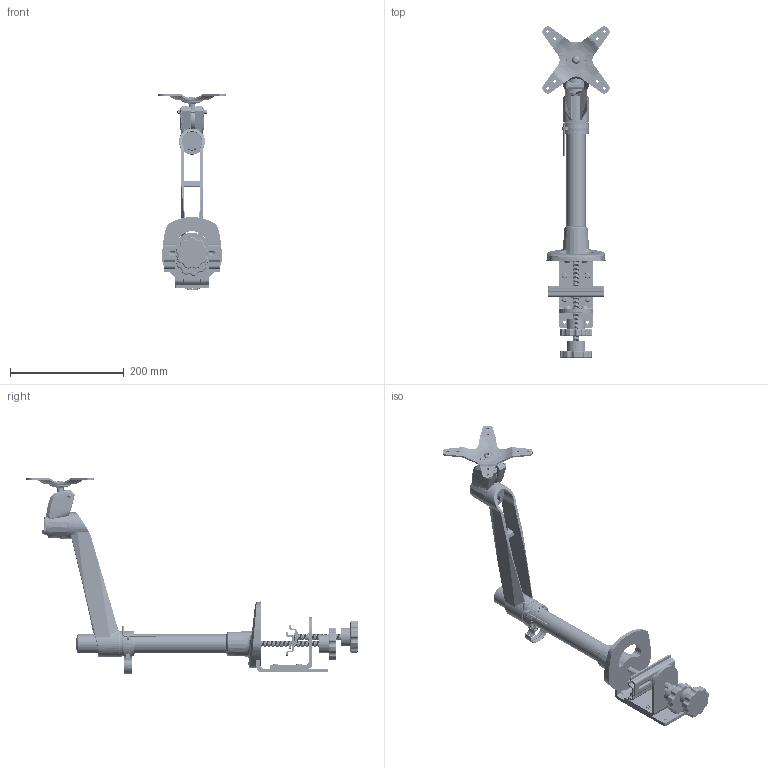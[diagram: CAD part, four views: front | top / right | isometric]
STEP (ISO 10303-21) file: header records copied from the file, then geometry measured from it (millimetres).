
FILE_DESCRIPTION((''),'2;1');
FILE_NAME('EM32131-LAMEX-0418_ASM','2013-04-24T',('B0540'),(''),'PRO/ENGINEER BY PARAMETRIC TECHNOLOGY CORPORATION, 2012360','PRO/ENGINEER BY PARAMETRIC TECHNOLOGY CORPORATION, 2012360','');
FILE_SCHEMA(('CONFIG_CONTROL_DESIGN'));
Length unit declared in the file: millimetre
Products named in the file (51): EM35136-17_2_1; EM35136-18_1_1; MANIFOLD_SOLID_BREP_45511_1; MANIFOLD_SOLID_BREP_48957_1; EM35136-14_1_ASM_1_ASM; EM35136-13_1_1; EM35136-49_1_1; EMN0112-29_1_1; EM13016-37_1_1; 60H244250-141_1_1; EM13011-44_1_1; EM13011-60_1_1; EM35111-58_1_1; EM35111-26_1_1; EM35111-48_1_1; 0112_ASM_1_ASM_1_ASM; EM35136-80_1_1; EM25111_12_2_1; EM35111-65_2_1; 60H114260-121_1_1; EM35136-14-2_1_1; TOOL_1_1; EM251111-04_ASM_5_ASM_1_ASM; EM35111-14_2_1; EM35111-59_2_1; EM35111-54_1_1; EM35111-38_1_1; EM35111-53_1_1; EM35111-07_ASM_1_ASM_1_ASM; EM45111-12_1_1; EM35111-03_ASM_4_ASM_1_ASM; EM32136_ASM_3_ASM_1_ASM; EM35111-17; EM35111-49-M4X8; EM35111-51; EM35111-11; AM001-_Q____-_Y_Y_____Y_ANY_ASM; EM35111-59; EM35111-52; EM35111-36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
Assembly tree (56 placements, depth 5):
  EM32131-LAMEX-0418_ASM
    EM32136_ASM_3_ASM_1_ASM
      EM251111-04_ASM_5_ASM_1_ASM
        EM35136-17_2_1
        EM35136-18_1_1
        EM35136-14_1_ASM_1_ASM
          MANIFOLD_SOLID_BREP_45511_1
          MANIFOLD_SOLID_BREP_48957_1
        EM35136-13_1_1
        EM35136-49_1_1
        EMN0112-29_1_1
        EM13016-37_1_1
        60H244250-141_1_1  x4
        EM13011-44_1_1
        EM13011-60_1_1
        0112_ASM_1_ASM_1_ASM
          EM35111-58_1_1
          EM35111-26_1_1
          EM35111-48_1_1
        EM35136-80_1_1
        EM25111_12_2_1
        EM35111-65_2_1
        60H114260-121_1_1  x4
        EM35136-14-2_1_1
        TOOL_1_1
      EM35111-03_ASM_4_ASM_1_ASM
        EM35111-14_2_1
        EM35111-59_2_1
        EM35111-07_ASM_1_ASM_1_ASM
          EM35111-54_1_1
          EM35111-38_1_1
          EM35111-53_1_1
        EM45111-12_1_1
    EM35111-02_ASM
      EM35111-17
      EM35111-49-M4X8
      EM35111-51
      AM001-_Q____-_Y_Y_____Y_ANY_ASM
        EM35111-11
      EM35111-59
      EM35111-52
      EM35111-36
      EM35111-48-M4XW8MM
      EM35111-47
      EM35111-41
      EM35111-46-M4X40MM
      EM13011-10
      EM13011-18-M8X12
    GROMMET-FINAL_ASM
      EM35136-14-LONG
      EM35136-49
Bounding box: 119.61 x 583.96 x 345.77 mm (x, y, z)
Volume: 711760.3 mm3; surface area: 424074.1 mm2
Topology: 48 solids, 65 shells, 6154 faces, 16969 edges, 10959 vertices
Faces by surface type: plane 2159, cylinder 1875, bspline 1136, cone 417, torus 322, sphere 231, extrusion 13, revolution 1
Entity records: 313222 total; most frequent: CARTESIAN_POINT 177222, ORIENTED_EDGE 31491, DIRECTION 23348, EDGE_CURVE 15829, VERTEX_POINT 10293, AXIS2_PLACEMENT_3D 8341, VECTOR 6665, LINE 6652
